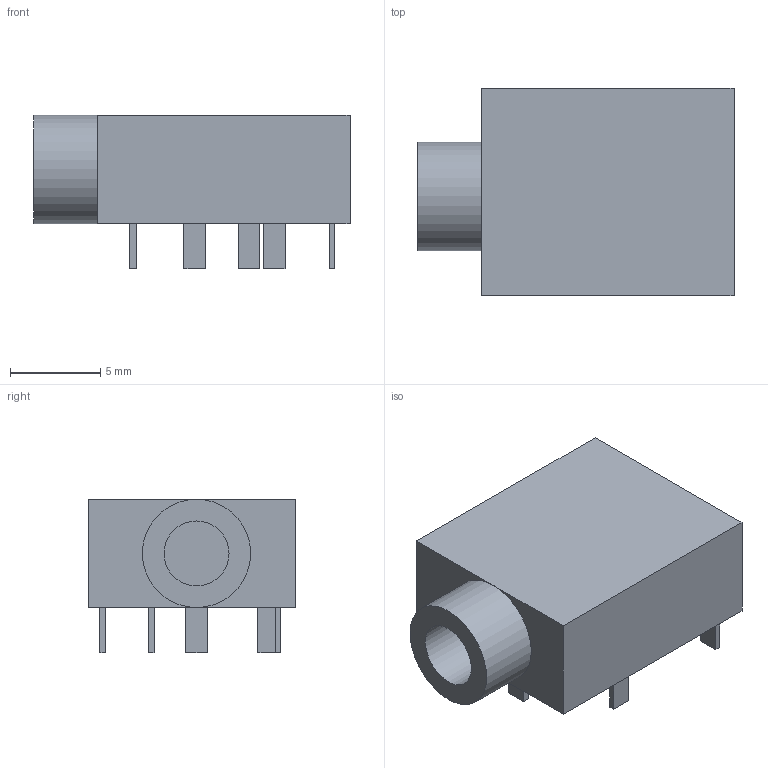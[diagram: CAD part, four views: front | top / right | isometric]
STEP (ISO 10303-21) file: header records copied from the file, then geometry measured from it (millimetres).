
FILE_DESCRIPTION(('Open CASCADE Model'),'2;1');
FILE_NAME('Switchcraft_35RAPC4BH3_jack_3p5mm','2026-09-04T00:01:43',( 'Author'),('Open CASCADE'),'Open CASCADE STEP processor 7.9', 'build123d','Unknown');
FILE_SCHEMA(('AUTOMOTIVE_DESIGN { 1 0 10303 214 1 1 1 1 }'));
Length unit declared in the file: millimetre
Products named in the file (4): Switchcraft_35RAPC4BH3_jack_3p5mm; body; bushing_M6x0p5; pins_5x
Assembly tree (3 placements, depth 2):
  Switchcraft_35RAPC4BH3_jack_3p5mm
    body
    bushing_M6x0p5
    pins_5x
Bounding box: 17.5 x 11.5 x 8.5 mm (x, y, z)
Volume: 953.7 mm3; surface area: 900.9 mm2
Topology: 7 solids, 7 shells, 42 faces, 81 edges, 54 vertices
Faces by surface type: plane 39, cylinder 3
Full cylindrical faces by diameter (mm): 3.6 x2, 6 x1
Entity records: 1107 total; most frequent: CARTESIAN_POINT 181, DIRECTION 179, ORIENTED_EDGE 162, EDGE_CURVE 81, LINE 75, VECTOR 75, VERTEX_POINT 54, AXIS2_PLACEMENT_3D 52
